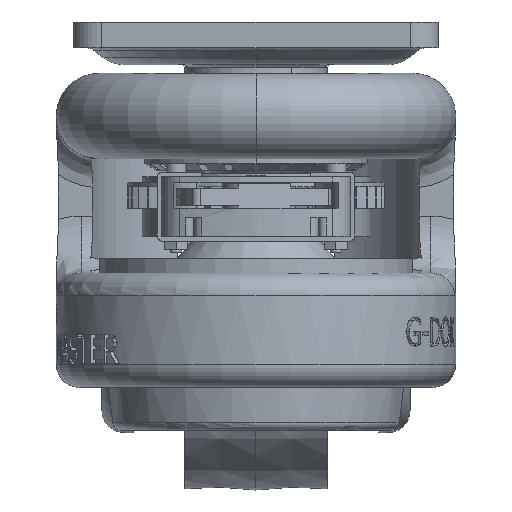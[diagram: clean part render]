
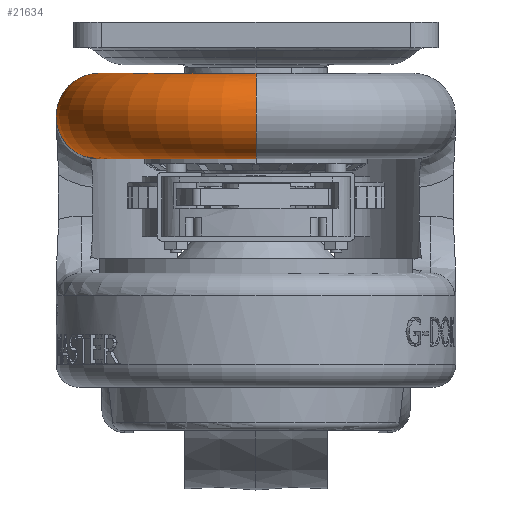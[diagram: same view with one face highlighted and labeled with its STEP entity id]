
A CAD part, left-side view. The second image highlights one B-rep face of the part: STEP entity #21634.
In plain terms, the highlighted toroidal (fillet/blend) face has major radius 27.5 mm and minor radius 7.5 mm.
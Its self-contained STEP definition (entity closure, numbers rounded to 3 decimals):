
#7142=CARTESIAN_POINT('',(27.5,0.,-9.));
#7143=VERTEX_POINT('',#7142);
#7144=CARTESIAN_POINT('',(32.803,0.,-11.197));
#7145=VERTEX_POINT('',#7144);
#7146=CARTESIAN_POINT('',(27.5,0.,-16.5));
#7147=DIRECTION('',(0.0,1.0,0.0));
#7148=DIRECTION('',(1.0,0.0,0.0));
#7149=AXIS2_PLACEMENT_3D('',#7146,#7147,#7148);
#7150=CIRCLE('',#7149,7.5);
#7151=EDGE_CURVE('',#7143,#7145,#7150,.T.);
#7162=CARTESIAN_POINT('',(-27.5,0.,-9.));
#7163=VERTEX_POINT('',#7162);
#7171=CARTESIAN_POINT('',(-27.5,0.,-24.));
#7172=VERTEX_POINT('',#7171);
#7173=CARTESIAN_POINT('',(-27.5,0.,-16.5));
#7174=DIRECTION('',(0.0,-1.0,0.0));
#7175=DIRECTION('',(-1.0,0.0,0.0));
#7176=AXIS2_PLACEMENT_3D('',#7173,#7174,#7175);
#7177=CIRCLE('',#7176,7.5);
#7178=EDGE_CURVE('',#7163,#7172,#7177,.T.);
#15563=CARTESIAN_POINT('',(0.,29.,-23.848));
#15564=VERTEX_POINT('',#15563);
#15565=CARTESIAN_POINT('',(0.,35.0,-16.5));
#15566=VERTEX_POINT('',#15565);
#15567=CARTESIAN_POINT('',(0.,27.5,-16.5));
#15568=DIRECTION('',(1.0,0.0,0.0));
#15569=DIRECTION('',(0.0,1.0,0.0));
#15570=AXIS2_PLACEMENT_3D('',#15567,#15568,#15569);
#15571=CIRCLE('',#15570,7.5);
#15572=EDGE_CURVE('',#15564,#15566,#15571,.T.);
#16889=CARTESIAN_POINT('',(0.,0.,-9.));
#16890=DIRECTION('',(0.0,0.0,1.0));
#16891=DIRECTION('',(1.0,0.0,0.0));
#16892=AXIS2_PLACEMENT_3D('',#16889,#16890,#16891);
#16893=CIRCLE('',#16892,27.5);
#16894=EDGE_CURVE('',#7143,#7163,#16893,.T.);
#16918=CARTESIAN_POINT('',(16.5,22.0,-24.));
#16919=VERTEX_POINT('',#16918);
#16926=CARTESIAN_POINT('',(18.894,22.0,-23.848));
#16927=VERTEX_POINT('',#16926);
#16928=CARTESIAN_POINT('',(18.894,22.0,-23.848));
#16929=CARTESIAN_POINT('',(18.829,22.0,-23.857));
#16930=CARTESIAN_POINT('',(18.763,22.0,-23.866));
#16931=CARTESIAN_POINT('',(18.697,22.0,-23.873));
#16932=CARTESIAN_POINT('',(17.957,22.0,-23.963));
#16933=CARTESIAN_POINT('',(17.217,22.0,-23.999));
#16934=CARTESIAN_POINT('',(16.532,22.0,-24.));
#16935=CARTESIAN_POINT('',(16.521,22.0,-24.));
#16936=CARTESIAN_POINT('',(16.511,22.0,-24.0));
#16937=CARTESIAN_POINT('',(16.5,22.0,-24.0));
#16938=B_SPLINE_CURVE_WITH_KNOTS('',3,(#16928,#16929,#16930,#16931,#16932,#16933,#16934,#16935,#16936,#16937),.UNSPECIFIED.,.F.,.U.,(4,3,3,4),(9.973,9.991,10.196,10.199),.UNSPECIFIED.);
#16939=EDGE_CURVE('',#16927,#16919,#16938,.T.);
#17282=CARTESIAN_POINT('',(0.,0.,-23.848));
#17283=DIRECTION('',(0.0,0.0,-1.0));
#17284=DIRECTION('',(-1.0,0.0,0.0));
#17285=AXIS2_PLACEMENT_3D('',#17282,#17283,#17284);
#17286=CIRCLE('',#17285,29.);
#17287=EDGE_CURVE('',#15564,#16927,#17286,.T.);
#18031=CARTESIAN_POINT('',(0.,0.,-24.));
#18032=DIRECTION('',(0.0,0.0,1.0));
#18033=DIRECTION('',(1.0,0.0,0.0));
#18034=AXIS2_PLACEMENT_3D('',#18031,#18032,#18033);
#18035=CIRCLE('',#18034,27.5);
#18036=EDGE_CURVE('',#16919,#7172,#18035,.T.);
#18750=CARTESIAN_POINT('',(26.702,19.054,-11.197));
#18751=VERTEX_POINT('',#18750);
#18800=CARTESIAN_POINT('',(27.279,21.928,-16.5));
#18801=VERTEX_POINT('',#18800);
#18811=CARTESIAN_POINT('',(26.702,19.054,-11.197));
#18812=CARTESIAN_POINT('',(26.704,19.056,-11.199));
#18813=CARTESIAN_POINT('',(26.705,19.059,-11.202));
#18814=CARTESIAN_POINT('',(26.706,19.061,-11.204));
#18815=CARTESIAN_POINT('',(26.922,19.544,-11.661));
#18816=CARTESIAN_POINT('',(27.085,19.992,-12.178));
#18817=CARTESIAN_POINT('',(27.198,20.388,-12.743));
#18818=CARTESIAN_POINT('',(27.309,20.777,-13.299));
#18819=CARTESIAN_POINT('',(27.369,21.113,-13.9));
#18820=CARTESIAN_POINT('',(27.381,21.378,-14.535));
#18821=CARTESIAN_POINT('',(27.393,21.638,-15.159));
#18822=CARTESIAN_POINT('',(27.358,21.827,-15.811));
#18823=CARTESIAN_POINT('',(27.282,21.925,-16.476));
#18824=CARTESIAN_POINT('',(27.281,21.926,-16.484));
#18825=CARTESIAN_POINT('',(27.28,21.927,-16.492));
#18826=CARTESIAN_POINT('',(27.279,21.928,-16.5));
#18827=B_SPLINE_CURVE_WITH_KNOTS('',3,(#18811,#18812,#18813,#18814,#18815,#18816,#18817,#18818,#18819,#18820,#18821,#18822,#18823,#18824,#18825,#18826),.UNSPECIFIED.,.F.,.U.,(4,3,3,3,3,4),(-12.45,-12.439,-10.359,-8.312,-6.296,-6.272),.UNSPECIFIED.);
#18828=EDGE_CURVE('',#18751,#18801,#18827,.T.);
#21502=CARTESIAN_POINT('',(0.,0.,-11.197));
#21503=DIRECTION('',(0.0,0.0,1.0));
#21504=DIRECTION('',(1.0,0.0,0.0));
#21505=AXIS2_PLACEMENT_3D('',#21502,#21503,#21504);
#21506=CIRCLE('',#21505,32.803);
#21507=EDGE_CURVE('',#7145,#18751,#21506,.T.);
#21611=CARTESIAN_POINT('',(0.,0.,-16.5));
#21612=DIRECTION('',(0.0,0.0,1.0));
#21613=DIRECTION('',(1.0,0.0,0.0));
#21614=AXIS2_PLACEMENT_3D('',#21611,#21612,#21613);
#21615=TOROIDAL_SURFACE('',#21614,27.5,7.5);
#21616=ORIENTED_EDGE('',*,*,#7151,.T.);
#21617=ORIENTED_EDGE('',*,*,#21507,.T.);
#21618=ORIENTED_EDGE('',*,*,#18828,.T.);
#21619=CARTESIAN_POINT('',(0.,0.,-16.5));
#21620=DIRECTION('',(0.0,0.0,-1.0));
#21621=DIRECTION('',(1.0,0.0,0.0));
#21622=AXIS2_PLACEMENT_3D('',#21619,#21620,#21621);
#21623=CIRCLE('',#21622,35.0);
#21624=EDGE_CURVE('',#15566,#18801,#21623,.T.);
#21625=ORIENTED_EDGE('',*,*,#21624,.F.);
#21626=ORIENTED_EDGE('',*,*,#15572,.F.);
#21627=ORIENTED_EDGE('',*,*,#17287,.T.);
#21628=ORIENTED_EDGE('',*,*,#16939,.T.);
#21629=ORIENTED_EDGE('',*,*,#18036,.T.);
#21630=ORIENTED_EDGE('',*,*,#7178,.F.);
#21631=ORIENTED_EDGE('',*,*,#16894,.F.);
#21632=EDGE_LOOP('',(#21616,#21617,#21618,#21625,#21626,#21627,#21628,#21629,#21630,#21631));
#21633=FACE_OUTER_BOUND('',#21632,.T.);
#21634=ADVANCED_FACE('',(#21633),#21615,.T.);
